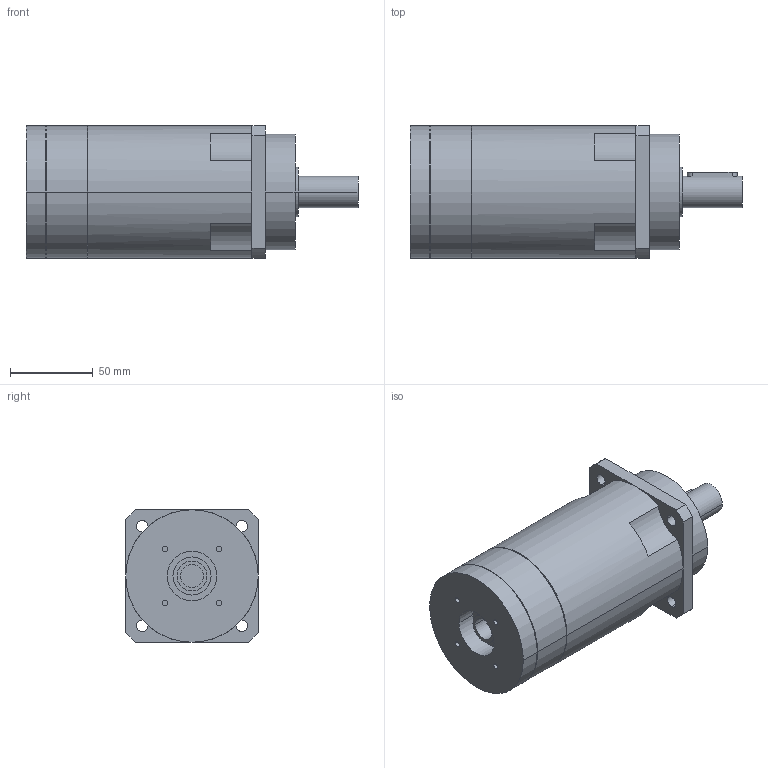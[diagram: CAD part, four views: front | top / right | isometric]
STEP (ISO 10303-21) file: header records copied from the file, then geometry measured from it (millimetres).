
FILE_DESCRIPTION(('CoCreate Modeling STEP Export'),'2;1');
FILE_NAME('GPR100_ig-48-64-80-100-120-144-180-216_19_B5_14_P24.stp','2014-08-26T11:54:47',(''),(''),'CoCreate Modeling STEP processor for AP214 (Solid Model)','CoCreate Modeling 16.00C 25-Feb-2009 (C) Parametric Technology GmbH','');
FILE_SCHEMA(('AUTOMOTIVE_DESIGN { 1 0 10303 214 1 1 1 1 }'));
Length unit declared in the file: millimetre
Products named in the file (2): GPR100_ig-48-64-80-100-120-144-180-216_19_B5_14_P24
Assembly tree (1 placements, depth 2):
  GPR100_ig-48-64-80-100-120-144-180-216_19_B5_14_P24
    GPR100_ig-48-64-80-100-120-144-180-216_19_B5_14_P24
Bounding box: 200.4 x 80 x 80 mm (x, y, z)
Volume: 795874.3 mm3; surface area: 60676.1 mm2
Topology: 1 solids, 1 shells, 84 faces, 216 edges, 146 vertices
Faces by surface type: cylinder 48, plane 30, cone 6
Entity records: 2299 total; most frequent: ORIENTED_EDGE 428, CARTESIAN_POINT 418, DIRECTION 336, EDGE_CURVE 214, VERTEX_POINT 146, AXIS2_PLACEMENT_3D 128, EDGE_LOOP 106, FACE_OUTER_BOUND 84
